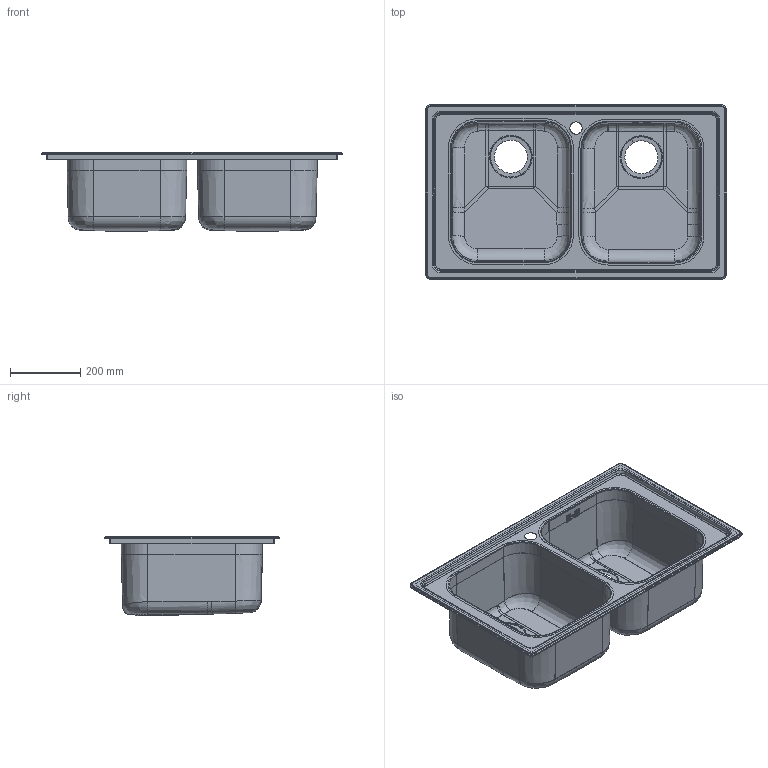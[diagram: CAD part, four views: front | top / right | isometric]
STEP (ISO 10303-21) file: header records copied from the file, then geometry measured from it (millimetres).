
FILE_DESCRIPTION(('CATIA V5 STEP Exchange'),'2;1');
FILE_NAME('\\sr02\Apell\Disegni\DISEGNI\LAVELLI\Apell\SemifiloFlangiato\AssiemiSemifiloFlangiato\SerieLinear\STP\LN862IBC.stp','2016-07-14T07:05:06+00:00',('none'),('none'),'CATIA Version 5-6 Release 2014','CATIA V5 STEP AP203','none');
FILE_SCHEMA(('CONFIG_CONTROL_DESIGN'));
Length unit declared in the file: millimetre
Products named in the file (1): Product1
Assembly tree (3 placements, depth 2):
  Product1
    #57
    #5496
    #12493
Bounding box: 860 x 500 x 227.31 mm (x, y, z)
Volume: 720695.7 mm3; surface area: 2126792.8 mm2
Topology: 4 solids, 4 shells, 532 faces, 1252 edges, 720 vertices
Faces by surface type: cylinder 172, plane 168, torus 72, cone 56, bspline 56, sphere 8
Entity records: 21498 total; most frequent: CARTESIAN_POINT 10313, ORIENTED_EDGE 2504, DIRECTION 1846, EDGE_CURVE 1244, AXIS2_PLACEMENT_3D 815, VERTEX_POINT 720, VECTOR 598, LINE 598
